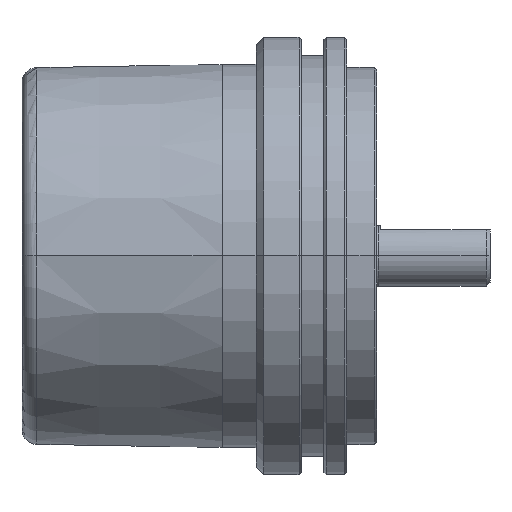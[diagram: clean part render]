
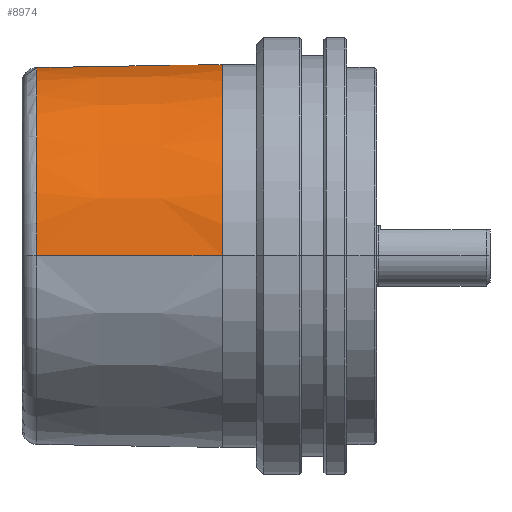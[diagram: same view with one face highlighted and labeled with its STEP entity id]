
A CAD part, top view. The second image highlights one B-rep face of the part: STEP entity #8974.
In plain terms, the highlighted conical face has half-angle 1 degrees and reference radius 25.4 mm.
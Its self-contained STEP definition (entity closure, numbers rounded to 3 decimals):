
#391 = CARTESIAN_POINT ( 'NONE',  ( -18.948, 17.138, -18.165 ) ) ;
#433 = CARTESIAN_POINT ( 'NONE',  ( -19.006, 17.139, -18.163 ) ) ;
#1012 = CARTESIAN_POINT ( 'NONE',  ( 5.5, 0., 0. ) ) ;
#1223 = CARTESIAN_POINT ( 'NONE',  ( 5.5, 16.106, -19.64 ) ) ;
#1335 = B_SPLINE_CURVE_WITH_KNOTS ( 'NONE', 3,
 ( #391, #4528, #433, #7698 ),
 .UNSPECIFIED., .F., .F.,
 ( 4, 4 ),
 ( 0., 0. ),
 .UNSPECIFIED. ) ;
#1758 = CARTESIAN_POINT ( 'NONE',  ( 5.5, 0., 0. ) ) ;
#1945 = VERTEX_POINT ( 'NONE', #9350 ) ;
#1969 = EDGE_CURVE ( 'NONE', #11314, #11386, #10915, .T. ) ;
#2237 = ORIENTED_EDGE ( 'NONE', *, *, #3734, .T. ) ;
#2737 = VERTEX_POINT ( 'NONE', #13452 ) ;
#2813 = DIRECTION ( 'NONE',  ( 0., 0., -1. ) ) ;
#3046 = CARTESIAN_POINT ( 'NONE',  ( 5.5, 0., 25.4 ) ) ;
#3280 = DIRECTION ( 'NONE',  ( 1., 0., 0. ) ) ;
#3326 = CARTESIAN_POINT ( 'NONE',  ( 4.924, 16.447, -19.343 ) ) ;
#3545 = CIRCLE ( 'NONE', #6934, 24.972 ) ;
#3588 = VERTEX_POINT ( 'NONE', #5345 ) ;
#3602 = ORIENTED_EDGE ( 'NONE', *, *, #9046, .T. ) ;
#3734 = EDGE_CURVE ( 'NONE', #1945, #3588, #3545, .T. ) ;
#4020 = EDGE_CURVE ( 'NONE', #2737, #5769, #11647, .T. ) ;
#4045 = CARTESIAN_POINT ( 'NONE',  ( 5.5, 16.106, -19.64 ) ) ;
#4125 = DIRECTION ( 'NONE',  ( 0., 0., 1. ) ) ;
#4294 = CARTESIAN_POINT ( 'NONE',  ( 5.364, 16.2, -19.56 ) ) ;
#4396 = CARTESIAN_POINT ( 'NONE',  ( 4.279, 16.699, -19.111 ) ) ;
#4400 = ORIENTED_EDGE ( 'NONE', *, *, #13149, .T. ) ;
#4528 = CARTESIAN_POINT ( 'NONE',  ( -18.977, 17.139, -18.163 ) ) ;
#4975 = AXIS2_PLACEMENT_3D ( 'NONE', #1012, #5159, #4125 ) ;
#5159 = DIRECTION ( 'NONE',  ( 1., 0., 0. ) ) ;
#5345 = CARTESIAN_POINT ( 'NONE',  ( -19.035, 0., 24.972 ) ) ;
#5436 = CARTESIAN_POINT ( 'NONE',  ( 3.552, 16.781, -19.022 ) ) ;
#5769 = VERTEX_POINT ( 'NONE', #4045 ) ;
#6011 = CARTESIAN_POINT ( 'NONE',  ( 3.552, 16.781, -19.022 ) ) ;
#6353 = CARTESIAN_POINT ( 'NONE',  ( -18.948, 17.138, -18.165 ) ) ;
#6363 = EDGE_CURVE ( 'NONE', #11386, #1945, #1335, .T. ) ;
#6632 = VECTOR ( 'NONE', #13458, 1000. ) ;
#6664 = EDGE_LOOP ( 'NONE', ( #2237, #4400, #9905, #3602, #12538, #9522 ) ) ;
#6934 = AXIS2_PLACEMENT_3D ( 'NONE', #9482, #3280, #10524 ) ;
#7698 = CARTESIAN_POINT ( 'NONE',  ( -19.035, 17.138, -18.162 ) ) ;
#8974 = ADVANCED_FACE ( 'NONE', ( #11453 ), #10781, .T. ) ;
#9028 = DIRECTION ( 'NONE',  ( -1., 0., 0. ) ) ;
#9046 = EDGE_CURVE ( 'NONE', #5769, #11314, #10814, .T. ) ;
#9120 = CARTESIAN_POINT ( 'NONE',  ( -18.948, 17.138, -18.165 ) ) ;
#9350 = CARTESIAN_POINT ( 'NONE',  ( -19.035, 17.138, -18.162 ) ) ;
#9358 = LINE ( 'NONE', #3046, #6632 ) ;
#9408 = CARTESIAN_POINT ( 'NONE',  ( -11.448, 17.014, -18.462 ) ) ;
#9482 = CARTESIAN_POINT ( 'NONE',  ( -19.035, 0., 0. ) ) ;
#9522 = ORIENTED_EDGE ( 'NONE', *, *, #6363, .T. ) ;
#9530 = CARTESIAN_POINT ( 'NONE',  ( 5.222, 16.288, -19.484 ) ) ;
#9905 = ORIENTED_EDGE ( 'NONE', *, *, #4020, .T. ) ;
#10524 = DIRECTION ( 'NONE',  ( 0., 0., -1. ) ) ;
#10577 = CARTESIAN_POINT ( 'NONE',  ( 4.767, 16.519, -19.278 ) ) ;
#10781 = CONICAL_SURFACE ( 'NONE', #4975, 25.4, 0.017 ) ;
#10814 = B_SPLINE_CURVE_WITH_KNOTS ( 'NONE', 3,
 ( #1223, #4294, #9530, #3326, #10577, #4396, #11635, #5436 ),
 .UNSPECIFIED., .F., .F.,
 ( 4, 2, 2, 4 ),
 ( 0., 0.001, 0.001, 0.002 ),
 .UNSPECIFIED. ) ;
#10915 = B_SPLINE_CURVE_WITH_KNOTS ( 'NONE', 3,
 ( #12553, #11504, #9408, #6353 ),
 .UNSPECIFIED., .F., .F.,
 ( 4, 4 ),
 ( 0., 0.023 ),
 .UNSPECIFIED. ) ;
#11314 = VERTEX_POINT ( 'NONE', #6011 ) ;
#11386 = VERTEX_POINT ( 'NONE', #9120 ) ;
#11453 = FACE_OUTER_BOUND ( 'NONE', #6664, .T. ) ;
#11504 = CARTESIAN_POINT ( 'NONE',  ( -3.948, 16.895, -18.747 ) ) ;
#11635 = CARTESIAN_POINT ( 'NONE',  ( 3.921, 16.775, -19.036 ) ) ;
#11647 = CIRCLE ( 'NONE', #12232, 25.4 ) ;
#12232 = AXIS2_PLACEMENT_3D ( 'NONE', #1758, #9028, #2813 ) ;
#12538 = ORIENTED_EDGE ( 'NONE', *, *, #1969, .T. ) ;
#12553 = CARTESIAN_POINT ( 'NONE',  ( 3.552, 16.781, -19.022 ) ) ;
#13149 = EDGE_CURVE ( 'NONE', #3588, #2737, #9358, .T. ) ;
#13452 = CARTESIAN_POINT ( 'NONE',  ( 5.5, 0., 25.4 ) ) ;
#13458 = DIRECTION ( 'NONE',  ( 1., 0., 0.017 ) ) ;
